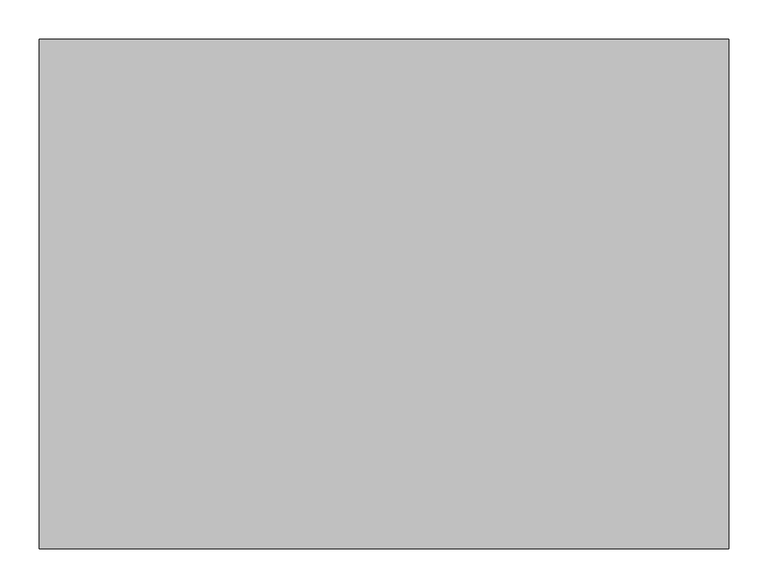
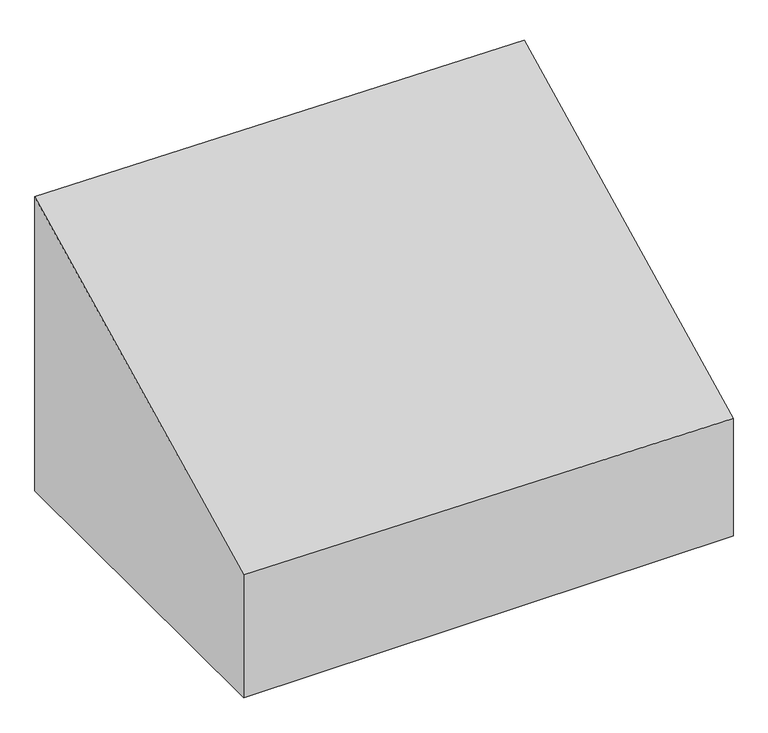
"""IFC4 building model written with IfcOpenShell, lengths in millimetres: proxy geometry, Murs caches C0b : Murs caches."""

from ifc_helpers import new_model, si_unit, origin, place, context, project, spatial, faceted_brep, source, transform, mapped, element, save


def generic_models_0d386bb0(model_context):
    return source(origin(), model_context, "Body", "Brep", [
        faceted_brep([(-6880.0, 3000.0, 4649.0), (-6880.0, 3000.0, 4090.0), (-6880.0, 2350.0, 4090.0), (-6880.0, 2350.0, 4324.0), (-6000.0, 3000.0, 4639.0), (-6000.0, 2350.0, 4314.0), (-6000.0, 2350.0, 4090.0), (-6000.0, 3000.0, 4090.0)], [[[0, 1, 2, 3]], [[4, 5, 6, 7]], [[4, 7, 1, 0]], [[7, 6, 2, 1]], [[6, 5, 3, 2]], [[5, 4, 0, 3]]]),
    ])


if __name__ == "__main__":
    model = new_model("IFC4")
    model_context = context("Model", 3, world=origin())
    ifc_project = project(units=[si_unit("LENGTHUNIT", "METRE", prefix="MILLI")], contexts=[model_context])
    site = spatial("IfcSite", under=ifc_project)
    building = spatial("IfcBuilding", under=site)
    placement = place(None, origin())
    generic_models_shape = generic_models_0d386bb0(model_context)
    element("IfcBuildingElementProxy", 1, Name="Murs caches C0b : Murs caches", ObjectType="Murs caches C0b : Murs caches", at=placement, inside=building, context=model_context, shape_type="MappedRepresentation", body=[
        mapped(generic_models_shape, transform((0.0, 0.0, 0.0), x_axis=(1.0, 0.0, 0.0), y_axis=(0.0, 1.0, 0.0), z_axis=(0.0, 0.0, 1.0))),
    ])
    save(model, "model.ifc")
